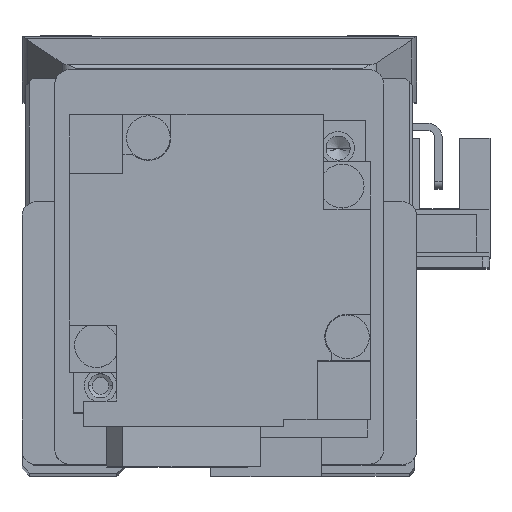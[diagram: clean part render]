
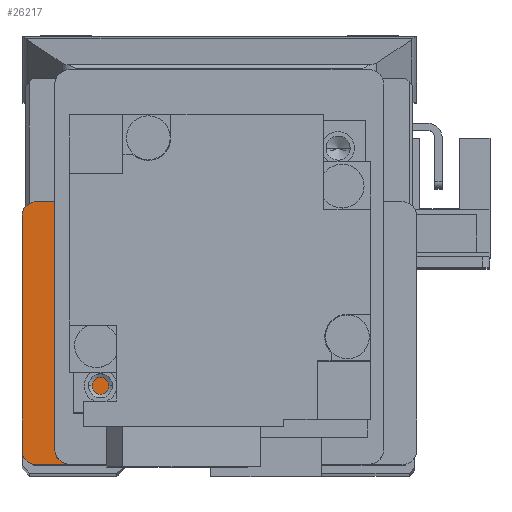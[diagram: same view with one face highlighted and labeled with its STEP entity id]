
A CAD part, top view. The second image highlights one B-rep face of the part: STEP entity #26217.
In plain terms, the highlighted planar face has unit normal (0, 0, 1) as drawn and (0, 0, -1) by its records, which use the part's own axes.
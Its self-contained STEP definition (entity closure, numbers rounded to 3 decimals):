
#656 = CARTESIAN_POINT ( 'NONE',  ( 11., -17., 16.25 ) ) ;
#937 = DIRECTION ( 'NONE',  ( 1., 0., 0. ) ) ;
#1002 = CARTESIAN_POINT ( 'NONE',  ( 27., -25., 16.25 ) ) ;
#1404 = DIRECTION ( 'NONE',  ( 1., 0., 0. ) ) ;
#1456 = DIRECTION ( 'NONE',  ( 1., 0., 0. ) ) ;
#1608 = CARTESIAN_POINT ( 'NONE',  ( 11., -27., 16.25 ) ) ;
#1753 = EDGE_CURVE ( 'NONE', #17064, #6650, #30547, .T. ) ;
#1876 = DIRECTION ( 'NONE',  ( 0., -1., 0. ) ) ;
#1975 = AXIS2_PLACEMENT_3D ( 'NONE', #4148, #3914, #1456 ) ;
#2199 = CARTESIAN_POINT ( 'NONE',  ( 22.5, 27., 16.25 ) ) ;
#2272 = CARTESIAN_POINT ( 'NONE',  ( 25., -25., 16.25 ) ) ;
#2632 = FACE_OUTER_BOUND ( 'NONE', #33134, .T. ) ;
#3375 = VECTOR ( 'NONE', #1876, 1000. ) ;
#3592 = CIRCLE ( 'NONE', #19008, 2. ) ;
#3914 = DIRECTION ( 'NONE',  ( 0., 0., -1. ) ) ;
#4148 = CARTESIAN_POINT ( 'NONE',  ( 25., 7., 16.25 ) ) ;
#5995 = LINE ( 'NONE', #35657, #15945 ) ;
#6133 = CARTESIAN_POINT ( 'NONE',  ( 22.5, 9., 16.25 ) ) ;
#6599 = EDGE_CURVE ( 'NONE', #16123, #19956, #8552, .T. ) ;
#6650 = VERTEX_POINT ( 'NONE', #34618 ) ;
#7811 = VECTOR ( 'NONE', #30053, 1000. ) ;
#8552 = CIRCLE ( 'NONE', #20880, 5. ) ;
#8717 = ORIENTED_EDGE ( 'NONE', *, *, #30394, .F. ) ;
#8972 = EDGE_CURVE ( 'NONE', #17064, #17098, #25085, .T. ) ;
#10769 = EDGE_CURVE ( 'NONE', #30055, #34510, #3592, .T. ) ;
#11309 = CARTESIAN_POINT ( 'NONE',  ( 11., -27., 16.25 ) ) ;
#11931 = PLANE ( 'NONE',  #20868 ) ;
#12203 = EDGE_CURVE ( 'NONE', #6650, #34510, #17683, .T. ) ;
#14624 = ORIENTED_EDGE ( 'NONE', *, *, #10769, .F. ) ;
#15627 = ORIENTED_EDGE ( 'NONE', *, *, #6599, .F. ) ;
#15945 = VECTOR ( 'NONE', #27479, 1000. ) ;
#16123 = VERTEX_POINT ( 'NONE', #34426 ) ;
#16724 = LINE ( 'NONE', #1608, #21434 ) ;
#17064 = VERTEX_POINT ( 'NONE', #22267 ) ;
#17098 = VERTEX_POINT ( 'NONE', #6133 ) ;
#17283 = EDGE_CURVE ( 'NONE', #31427, #17098, #31631, .T. ) ;
#17555 = CARTESIAN_POINT ( 'NONE',  ( 25., -25., 16.25 ) ) ;
#17683 = LINE ( 'NONE', #23845, #3375 ) ;
#17829 = DIRECTION ( 'NONE',  ( 1., 0., 0. ) ) ;
#17999 = DIRECTION ( 'NONE',  ( 0., -1., 0. ) ) ;
#18595 = EDGE_CURVE ( 'NONE', #31427, #16123, #5995, .T. ) ;
#19008 = AXIS2_PLACEMENT_3D ( 'NONE', #2272, #19813, #937 ) ;
#19813 = DIRECTION ( 'NONE',  ( 0., 0., 1. ) ) ;
#19956 = VERTEX_POINT ( 'NONE', #656 ) ;
#20284 = DIRECTION ( 'NONE',  ( 0., 0., 1. ) ) ;
#20690 = LINE ( 'NONE', #33774, #30575 ) ;
#20868 = AXIS2_PLACEMENT_3D ( 'NONE', #17555, #20284, #30971 ) ;
#20880 = AXIS2_PLACEMENT_3D ( 'NONE', #31493, #34393, #17829 ) ;
#21025 = ORIENTED_EDGE ( 'NONE', *, *, #8972, .F. ) ;
#21310 = EDGE_CURVE ( 'NONE', #34414, #30055, #20690, .T. ) ;
#21434 = VECTOR ( 'NONE', #17999, 1000. ) ;
#22023 = ORIENTED_EDGE ( 'NONE', *, *, #12203, .T. ) ;
#22267 = CARTESIAN_POINT ( 'NONE',  ( 25., 9., 16.25 ) ) ;
#22629 = ORIENTED_EDGE ( 'NONE', *, *, #17283, .T. ) ;
#23845 = CARTESIAN_POINT ( 'NONE',  ( 27., 27., 16.25 ) ) ;
#24294 = VECTOR ( 'NONE', #29604, 1000. ) ;
#25085 = LINE ( 'NONE', #35498, #7811 ) ;
#26217 = ADVANCED_FACE ( 'NONE', ( #2632 ), #11931, .F. ) ;
#27479 = DIRECTION ( 'NONE',  ( -1., 0., 0. ) ) ;
#28596 = ORIENTED_EDGE ( 'NONE', *, *, #21310, .F. ) ;
#28901 = CARTESIAN_POINT ( 'NONE',  ( 22.5, -12., 16.25 ) ) ;
#29604 = DIRECTION ( 'NONE',  ( 0., 1., 0. ) ) ;
#30053 = DIRECTION ( 'NONE',  ( -1., 0., 0. ) ) ;
#30055 = VERTEX_POINT ( 'NONE', #35546 ) ;
#30394 = EDGE_CURVE ( 'NONE', #19956, #34414, #16724, .T. ) ;
#30547 = CIRCLE ( 'NONE', #1975, 2. ) ;
#30575 = VECTOR ( 'NONE', #1404, 1000. ) ;
#30971 = DIRECTION ( 'NONE',  ( 1., 0., 0. ) ) ;
#31427 = VERTEX_POINT ( 'NONE', #28901 ) ;
#31493 = CARTESIAN_POINT ( 'NONE',  ( 16., -17., 16.25 ) ) ;
#31631 = LINE ( 'NONE', #2199, #24294 ) ;
#33134 = EDGE_LOOP ( 'NONE', ( #35355, #22629, #21025, #34583, #22023, #14624, #28596, #8717, #15627 ) ) ;
#33774 = CARTESIAN_POINT ( 'NONE',  ( -25., -27., 16.25 ) ) ;
#34393 = DIRECTION ( 'NONE',  ( 0., 0., 1. ) ) ;
#34414 = VERTEX_POINT ( 'NONE', #11309 ) ;
#34426 = CARTESIAN_POINT ( 'NONE',  ( 16., -12., 16.25 ) ) ;
#34510 = VERTEX_POINT ( 'NONE', #1002 ) ;
#34583 = ORIENTED_EDGE ( 'NONE', *, *, #1753, .T. ) ;
#34618 = CARTESIAN_POINT ( 'NONE',  ( 27., 7., 16.25 ) ) ;
#35355 = ORIENTED_EDGE ( 'NONE', *, *, #18595, .F. ) ;
#35498 = CARTESIAN_POINT ( 'NONE',  ( 25., 9., 16.25 ) ) ;
#35546 = CARTESIAN_POINT ( 'NONE',  ( 25., -27., 16.25 ) ) ;
#35657 = CARTESIAN_POINT ( 'NONE',  ( 22.5, -12., 16.25 ) ) ;
